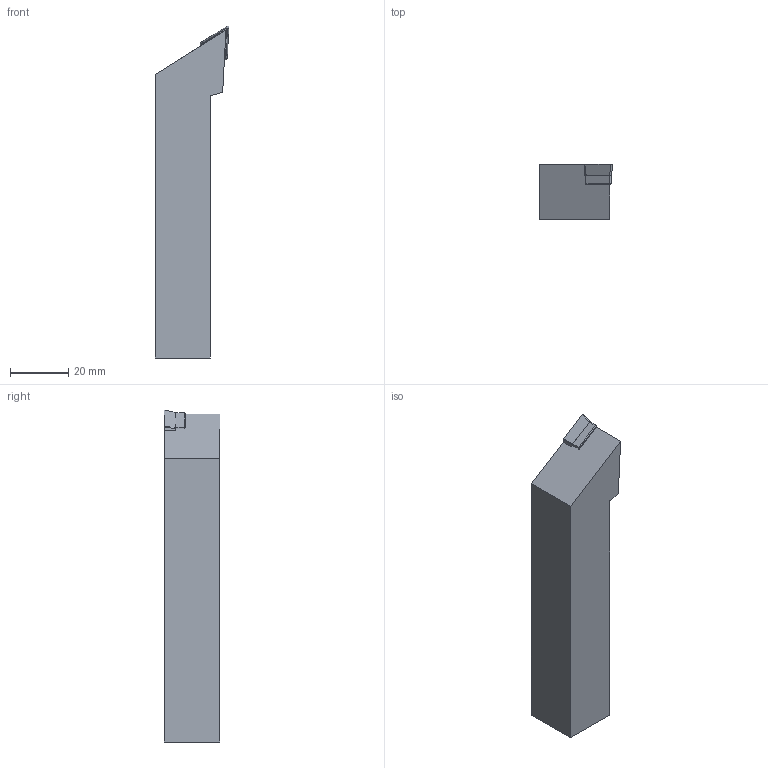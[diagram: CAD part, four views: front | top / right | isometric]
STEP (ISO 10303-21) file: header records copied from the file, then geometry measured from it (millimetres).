
FILE_DESCRIPTION (( 'STEP AP203' ), '1' );
FILE_NAME ('SDJCR12-3B-HAAS.STEP', '2020-11-06T06:56:54', ( '' ), ( '' ), 'SwSTEP 2.0', 'SolidWorks 2015', '' );
FILE_SCHEMA (( 'CONFIG_CONTROL_DESIGN' ));
Length unit declared in the file: millimetre
Products named in the file (5): SD32S_ル遽; SDJCR12-3B-HAAS; DCMT11T304_ル遽; SDJCR12-3B-HAAS_ル遽
Assembly tree (4 placements, depth 3):
  SDJCR12-3B-HAAS
    SDJCR12-3B-HAAS
      SDJCR12-3B-HAAS_ル遽
      SD32S_ル遽
      DCMT11T304_ル遽
Bounding box: 25.4 x 19.05 x 114.3 mm (x, y, z)
Volume: 39312.4 mm3; surface area: 9819 mm2
Topology: 3 solids, 3 shells, 43 faces, 101 edges, 65 vertices
Faces by surface type: plane 31, cylinder 9, cone 3
Full cylindrical faces by diameter (mm): 4.5 x1, 5.4 x1, 6.7 x1
Entity records: 1727 total; most frequent: CARTESIAN_POINT 237, DIRECTION 204, ORIENTED_EDGE 194, EDGE_CURVE 97, LINE 76, VECTOR 76, VERTEX_POINT 65, AXIS2_PLACEMENT_3D 64
